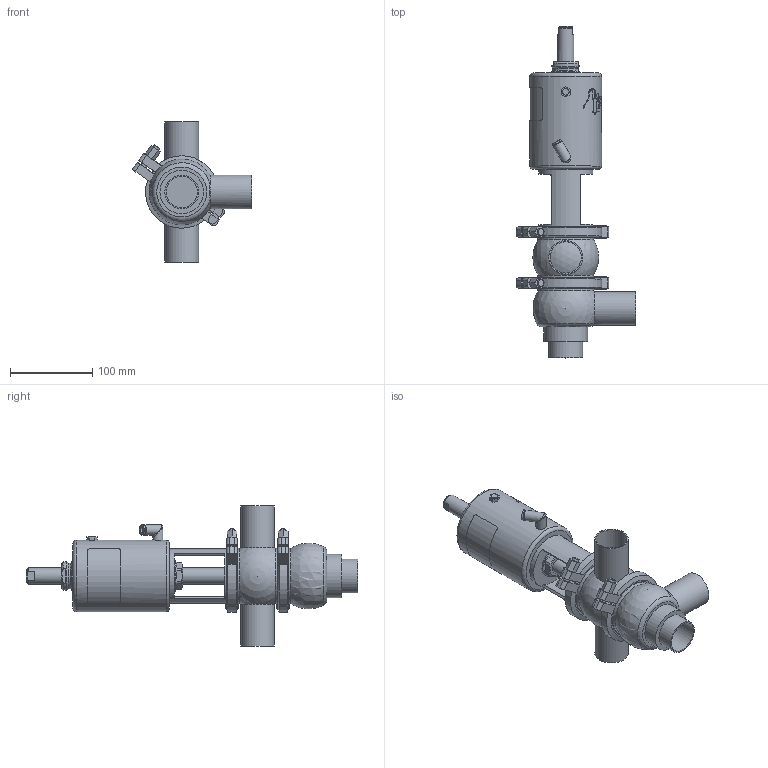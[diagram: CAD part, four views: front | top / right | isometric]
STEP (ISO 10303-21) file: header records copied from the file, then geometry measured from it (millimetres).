
FILE_DESCRIPTION (( 'STEP AP214' ), '1' );
FILE_NAME ('INNOVA K E W DIN 040 T1 AS NC_10.240.16.0022.STEP', '2024-08-06T10:51:23', ( '' ), ( '' ), 'SwSTEP 2.0', 'SolidWorks 2023', '' );
FILE_SCHEMA (( 'AUTOMOTIVE_DESIGN' ));
Length unit declared in the file: millimetre
Products named in the file (6): 10.240.15.0010_DN 040; 10.240.15.0014_T1 AS P0; 10.240.15.0002_DIN 040; INNOVA K E W DIN 040 T1 AS NC_10.240.16.0022; 10.240.15.0001_DN 040; 10.240.15.0007_DIN 040
Assembly tree (6 placements, depth 2):
  INNOVA K E W DIN 040 T1 AS NC_10.240.16.0022
    10.240.15.0007_DIN 040
    10.240.15.0002_DIN 040
    10.240.15.0010_DN 040
    10.240.15.0014_T1 AS P0
    10.240.15.0001_DN 040  x2
Bounding box: 145.13 x 403 x 170 mm (x, y, z)
Volume: 1444036.4 mm3; surface area: 209040.6 mm2
Topology: 6 solids, 6 shells, 402 faces, 1056 edges, 691 vertices
Faces by surface type: plane 194, cylinder 91, bspline 80, cone 26, torus 6, sphere 5
Full cylindrical faces by diameter (mm): 6.15 x1, 8 x5, 8.5 x1, 10.5 x1, 12.5 x3, 16 x1, 20 x2, 31 x1, 34.5 x2, 36.5 x1, 38 x4, 41 x4, 53 x1, 66 x1, 67.5 x3, 79.5 x4, 87 x1
Entity records: 19699 total; most frequent: CARTESIAN_POINT 10332, ORIENTED_EDGE 1630, DIRECTION 1265, EDGE_CURVE 815, VERTEX_POINT 564, AXIS2_PLACEMENT_3D 488, EDGE_LOOP 431, FACE_OUTER_BOUND 385
